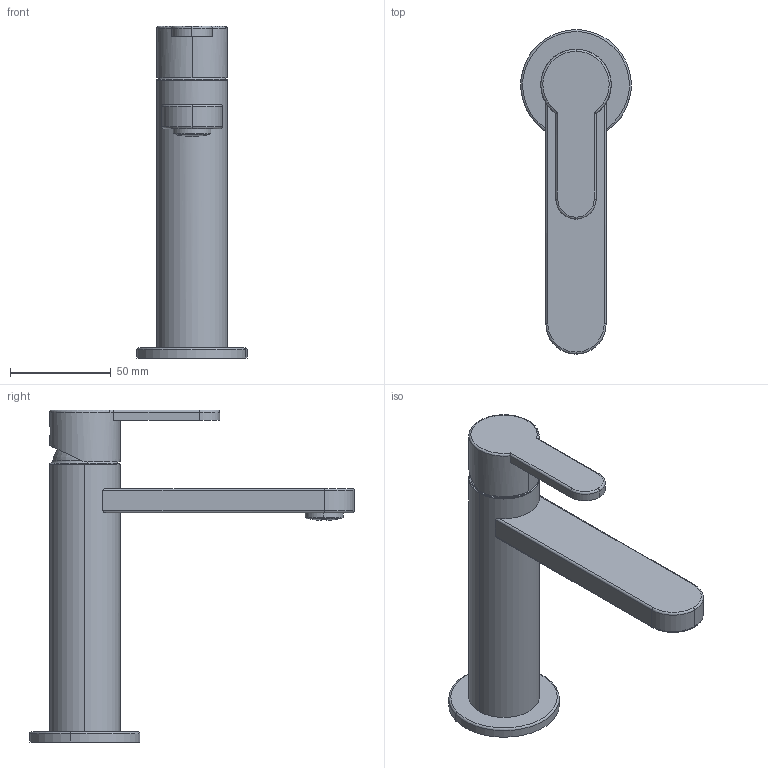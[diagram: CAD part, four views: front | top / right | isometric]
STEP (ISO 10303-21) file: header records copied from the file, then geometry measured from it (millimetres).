
FILE_DESCRIPTION (( 'STEP AP203' ), '1' );
FILE_NAME ('MIK1D.STEP', '2024-10-31T14:28:28', ( '' ), ( '' ), 'SwSTEP 2.0', 'SolidWorks 2023', '' );
FILE_SCHEMA (( 'CONFIG_CONTROL_DESIGN' ));
Length unit declared in the file: millimetre
Products named in the file (14): EU1861_0; MIK1D; OR272ACS; EU0855_1; EU0824_ZA; GAL575135; EU1860_0; C10.00.0029; OR607178ACS; C47.00.0023.01; GRANCO M5x6 ACCIAIO; GAL319121; C13.00.0014; EU1863_0
Assembly tree (13 placements, depth 2):
  MIK1D
    EU1860_0
    GAL319121
    GAL575135
    EU1861_0
    EU0824_ZA
    EU1863_0
    OR272ACS
    C10.00.0029
    EU0855_1
    GRANCO M5x6 ACCIAIO
    C47.00.0023.01
    C13.00.0014
    OR607178ACS
Bounding box: 54.83 x 161.43 x 165.1 mm (x, y, z)
Volume: 129758.2 mm3; surface area: 72544 mm2
Topology: 16 solids, 16 shells, 641 faces, 1514 edges, 959 vertices
Faces by surface type: plane 252, cylinder 231, cone 70, torus 46, bspline 37, sphere 5
Entity records: 21703 total; most frequent: CARTESIAN_POINT 5257, DIRECTION 3313, ORIENTED_EDGE 3004, EDGE_CURVE 1502, AXIS2_PLACEMENT_3D 1329, VERTEX_POINT 957, EDGE_LOOP 733, CIRCLE 709
